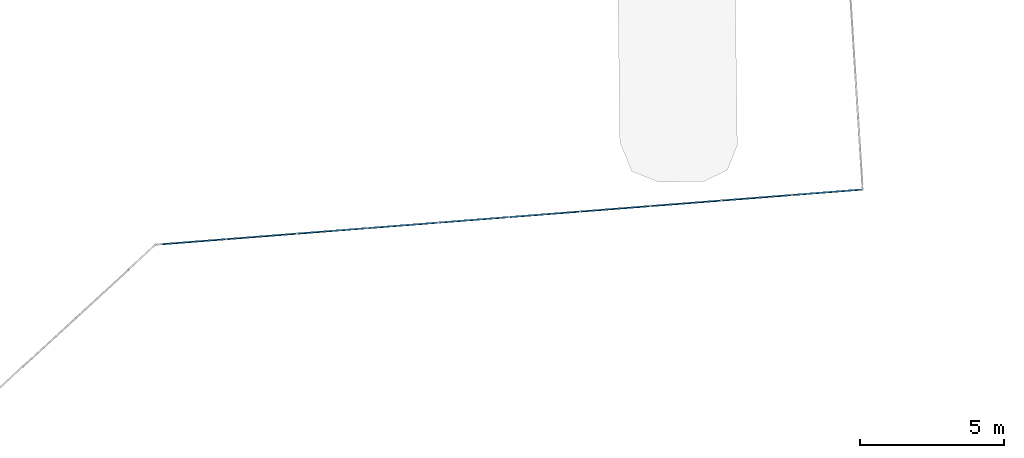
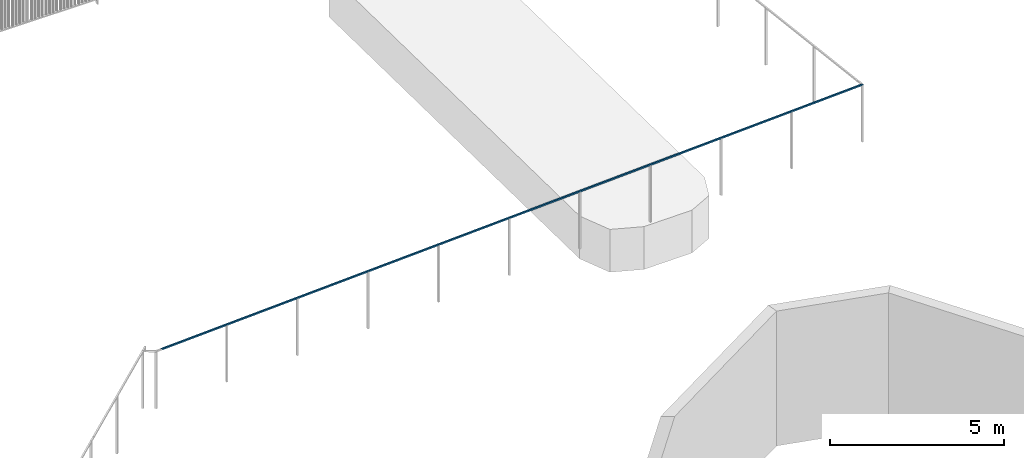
# One storey, part 71 of 91: 1 building element part, 1 element without a shape of its own.
"""IFC2X3 building model written with IfcOpenShell, lengths in metres."""

from ifc_helpers import new_model, entity, si_unit, converted_unit, derived_unit, money_unit, direction, frame, origin_with_axes, place, context, subcontext, project, spatial, faceted_brep, material, type_object, element, aggregate, save


model = new_model("IFC2X3")

# Units and contexts
model_context = context("Model", 3, precision=1e-05, world=origin_with_axes(), true_north=direction((0.0, 1.0)))
body_context = subcontext(model_context, "Body", "Model", "MODEL_VIEW")
ifc_project = project(units=[si_unit("LENGTHUNIT", "METRE"), si_unit("AREAUNIT", "SQUARE_METRE"), si_unit("VOLUMEUNIT", "CUBIC_METRE"), converted_unit("PLANEANGLEUNIT", "DEGREE", entity("IfcPlaneAngleMeasure", 0.0174532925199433), si_unit("PLANEANGLEUNIT", "RADIAN"), dimensions=[0, 0, 0, 0, 0, 0, 0]), money_unit("EUR"), converted_unit("TIMEUNIT", "Year", entity("IfcTimeMeasure", 31557600.0), si_unit("TIMEUNIT", "SECOND"), dimensions=[0, 0, 1, 0, 0, 0, 0]), si_unit("MASSUNIT", "GRAM", prefix="KILO"), si_unit("THERMODYNAMICTEMPERATUREUNIT", "DEGREE_CELSIUS"), si_unit("LUMINOUSINTENSITYUNIT", "LUMEN"), si_unit("ENERGYUNIT", "JOULE", prefix="MEGA"), derived_unit("THERMALCONDUCTANCEUNIT", [(si_unit("POWERUNIT", "WATT"), 1), (si_unit("LENGTHUNIT", "METRE"), -1), (si_unit("THERMODYNAMICTEMPERATUREUNIT", "KELVIN"), -1)]), derived_unit("SPECIFICHEATCAPACITYUNIT", [(si_unit("ENERGYUNIT", "JOULE"), 1), (si_unit("MASSUNIT", "GRAM", prefix="KILO"), -1), (si_unit("THERMODYNAMICTEMPERATUREUNIT", "KELVIN"), -1)]), derived_unit("MASSDENSITYUNIT", [(si_unit("MASSUNIT", "GRAM", prefix="KILO"), 1), (si_unit("VOLUMEUNIT", "CUBIC_METRE"), -1)])], contexts=[model_context])

# Site, building, storey
site_placement = place(None, origin_with_axes())
site = spatial("IfcSite", under=ifc_project, at=site_placement, Name="Site", CompositionType="ELEMENT")
building_placement = place(site_placement, origin_with_axes())
building = spatial("IfcBuilding", under=site, at=building_placement, Name="Bâtiment", CompositionType="ELEMENT")
storey_placement = place(building_placement, origin_with_axes())
storey = spatial("IfcBuildingStorey", under=building, at=storey_placement, Name="RDC", CompositionType="ELEMENT", Elevation=0.0)

# Proxy, building element part
building_element_proxy_type = type_object("IfcBuildingElementProxyType", Name="Type de garde-corps", PredefinedType="NOTDEFINED")
proxy_placement = place(storey_placement, frame((79.63337255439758, 3.614023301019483, -2.37161404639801), z_axis=(0.0, 0.0, 1.0), x_axis=(1.0, 0.0, 0.0)))
proxy = element("IfcBuildingElementProxy", 1, at=proxy_placement, inside=storey, type_object=building_element_proxy_type, Name="RAMPE-004")
ifc_material = material(Name="Acier Galva")
building_element_part_placement = place(proxy_placement, origin_with_axes())
building_element_part = element("IfcBuildingElementPart", 2, at=building_element_part_placement, material=ifc_material, Name="Acier Galva", context=body_context, shape_type="Brep", body=[
    faceted_brep([(-0.940971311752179, -18.18162336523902, 3.244203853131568), (-0.8911228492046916, -18.17773353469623, 3.193391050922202), (23.41746773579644, -16.28105480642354, 2.800596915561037), (-0.9448611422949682, -18.13177490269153, 3.244203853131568), (-0.8950126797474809, -18.12788507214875, 3.193391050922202), (23.36442675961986, -16.23504809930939, 2.800596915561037), (23.41783867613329, -16.28062715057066, 2.85059533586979), (23.36479769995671, -16.23462044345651, 2.85059533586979)], [[[0, 1, 2]], [[0, 3, 4, 1]], [[1, 5, 2]], [[0, 2, 6]], [[3, 0, 6]], [[4, 3, 7]], [[1, 4, 5]], [[6, 2, 5, 7]], [[3, 6, 7]], [[4, 7, 5]]]),
])
aggregate(proxy, [building_element_part])

save(model, "model.ifc")
